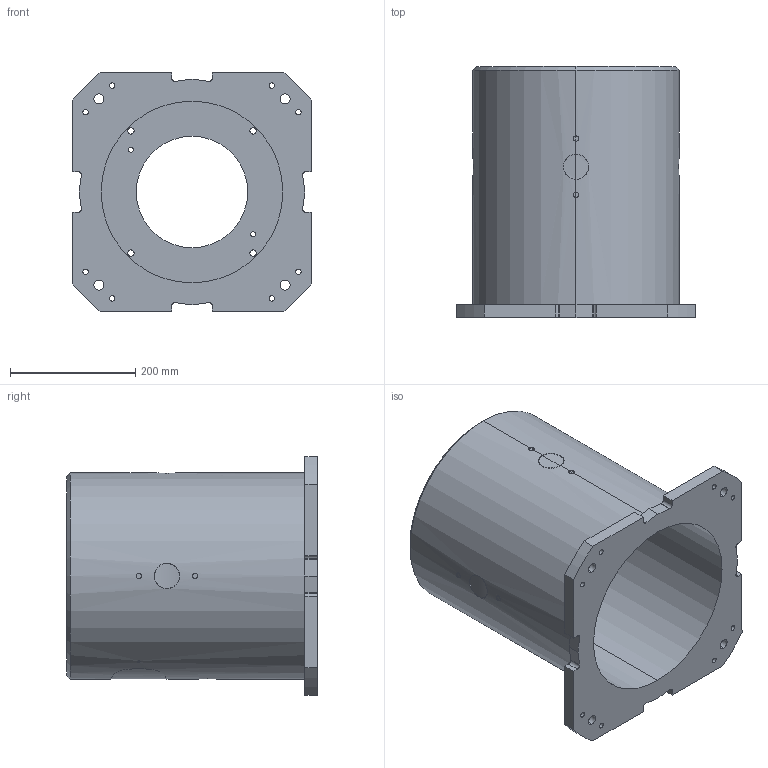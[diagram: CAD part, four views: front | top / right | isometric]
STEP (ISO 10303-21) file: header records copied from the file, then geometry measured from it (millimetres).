
FILE_DESCRIPTION (( 'STEP AP214' ), '1' );
FILE_NAME ('E-400.STEP', '2024-01-19T08:44:03', ( '' ), ( '' ), 'SwSTEP 2.0', 'SolidWorks 2022', '' );
FILE_SCHEMA (( 'AUTOMOTIVE_DESIGN' ));
Length unit declared in the file: millimetre
Products named in the file (1): E-400
Bounding box: 380 x 400 x 380 mm (x, y, z)
Volume: 9509285.7 mm3; surface area: 1013734.4 mm2
Topology: 1 solids, 1 shells, 146 faces, 400 edges, 266 vertices
Faces by surface type: cylinder 100, plane 28, bspline 16, cone 2
Entity records: 9751 total; most frequent: CARTESIAN_POINT 5547, ORIENTED_EDGE 800, DIRECTION 680, EDGE_CURVE 400, VERTEX_POINT 266, AXIS2_PLACEMENT_3D 257, EDGE_LOOP 194, LINE 166
